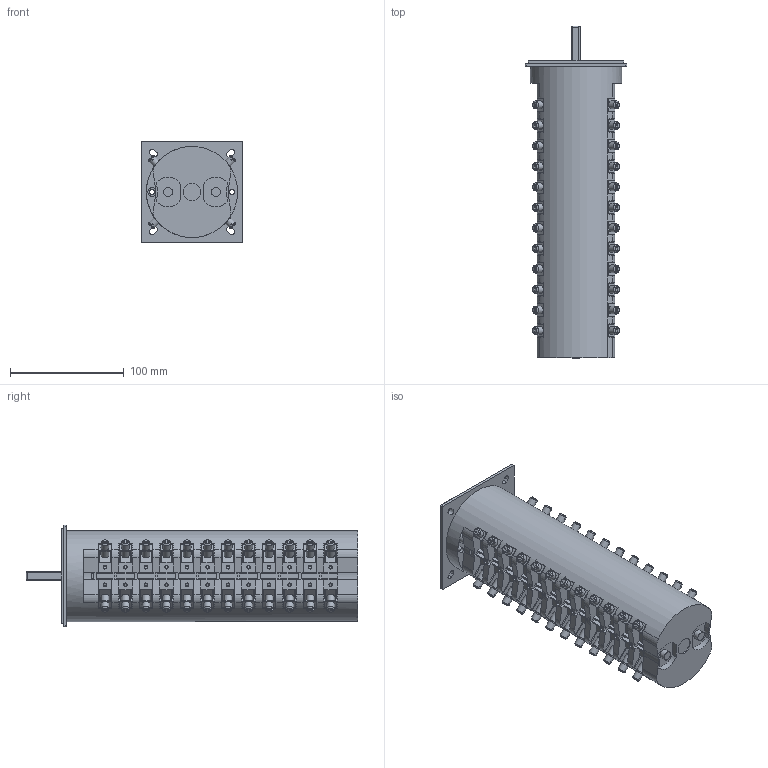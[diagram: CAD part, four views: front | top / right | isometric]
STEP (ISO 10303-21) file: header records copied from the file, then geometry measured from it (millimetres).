
FILE_DESCRIPTION(/* description */ (''),/* implementation_level */ '2;1');
FILE_NAME(/* name */ '4G80-U_12_korpusow.stp',/* time_stamp */ '2021-07-22T07:57:59+02:00',/* author */ (''),/* organization */ (''),/* preprocessor_version */ 'ST-DEVELOPER v18.1',/* originating_system */ 'SIEMENS PLM Software NX 1965',/* authorisation */ '');
FILE_SCHEMA (('AUTOMOTIVE_DESIGN { 1 0 10303 214 3 1 1 1 }'));
Products named in the file (1): 4G80-U_12_korpusow_stp
Bounding box: 89.2 x 291.25 x 89.2 mm (x, y, z)
Volume: 1039320.5 mm3; surface area: 214725.3 mm2
Topology: 1 solids, 89 shells, 2269 faces, 5822 edges, 3887 vertices
Faces by surface type: plane 1660, cylinder 462, cone 144, bspline 3
Full cylindrical faces by diameter (mm): 2.5 x48, 4.5 x2, 7 x96, 7.5 x2, 8 x4, 8.5 x2, 11.6 x2, 12 x3, 15 x1, 80 x1
Entity records: 70012 total; most frequent: CARTESIAN_POINT 16041, ORIENTED_EDGE 10886, DIRECTION 10873, EDGE_CURVE 5443, LINE 3943, VECTOR 3943, VERTEX_POINT 3732, AXIS2_PLACEMENT_3D 3465
